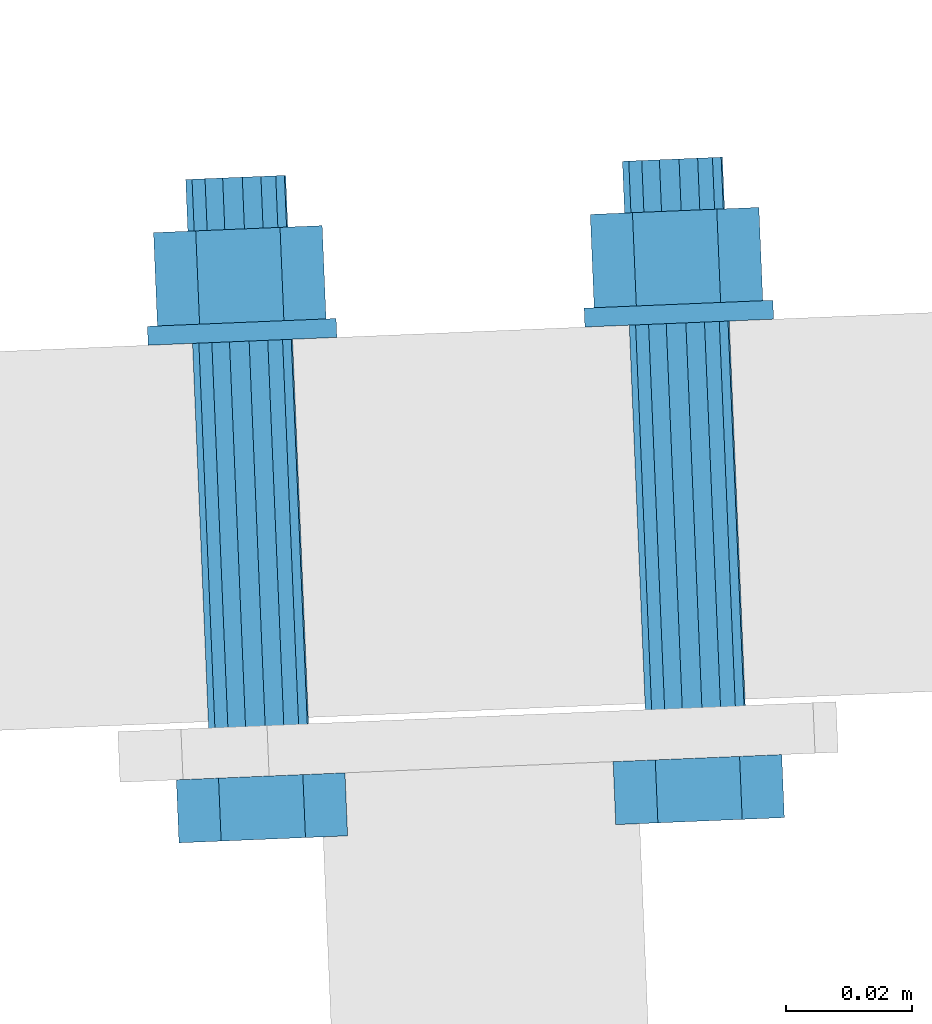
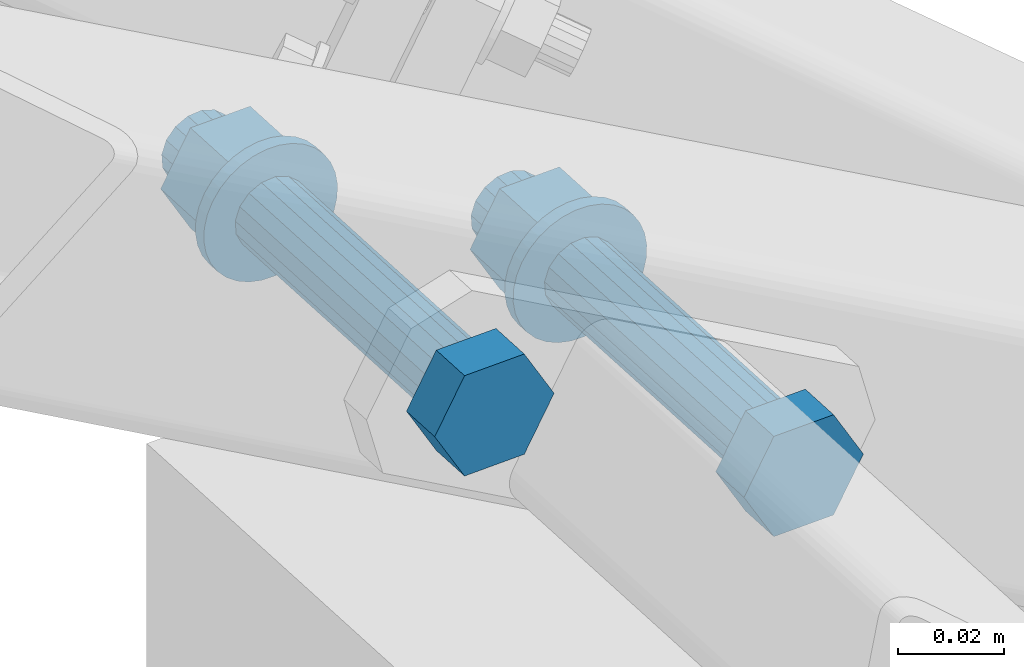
# One storey, part 140 of 288: 1 mechanical fastener.
"""IFC2X3 building model written with IfcOpenShell, lengths in millimetres."""

from ifc_helpers import new_model, entity, si_unit, converted_unit, origin_with_axes, place, context, project, spatial, faceted_brep, element, save


model = new_model("IFC2X3")

# Units and contexts
model_context = context("Model", 3, precision=1e-09, world=origin_with_axes())
ifc_project = project(units=[si_unit("LENGTHUNIT", "METRE", prefix="MILLI"), si_unit("AREAUNIT", "SQUARE_METRE"), si_unit("VOLUMEUNIT", "CUBIC_METRE"), converted_unit("PLANEANGLEUNIT", "DEGREE", entity("IfcPlaneAngleMeasure", 0.01745329), si_unit("PLANEANGLEUNIT", "RADIAN"), dimensions=[0, 0, 0, 0, 0, 0, 0])], contexts=[model_context])

# Site, building, storey
site_placement = place(None, origin_with_axes())
site = spatial("IfcSite", under=ifc_project, at=site_placement, Name="Remont ?wietlik?w nad MC w NCPP w Opolu", CompositionType="ELEMENT")
building_placement = place(site_placement, origin_with_axes())
building = spatial("IfcBuilding", under=site, at=building_placement, Name="Konstrukcja 1", CompositionType="ELEMENT")
storey_placement = place(building_placement, origin_with_axes())
storey = spatial("IfcBuildingStorey", under=building, at=storey_placement, Name="Default Storey", CompositionType="ELEMENT", Elevation=0.0)

# Mechanical fastener
mechanical_fastener_placement = place(None, origin_with_axes())
element("IfcMechanicalFastener", 1, at=mechanical_fastener_placement, inside=storey, ObjectType="-", NominalDiameter=16.0, NominalLength=95.0, context=model_context, shape_type="Brep", body=[
    faceted_brep([(1054.347454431, 13360.007274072, 257.171574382), (1053.930737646, 13369.998587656, 257.171573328), (1060.612432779, 13370.277265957, 245.588485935), (1061.029149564, 13360.285952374, 245.588486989), (1073.975814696, 13370.834624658, 245.5884907), (1074.392531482, 13360.843311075, 245.588491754), (1080.657501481, 13371.113305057, 257.171582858), (1081.074218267, 13361.121991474, 257.171583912), (1073.975806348, 13370.834626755, 268.754670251), (1074.392523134, 13360.843313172, 268.754671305), (1060.612424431, 13370.277268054, 268.754665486), (1061.029141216, 13360.285954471, 268.75466654)], [[[0, 1, 2, 3]], [[3, 2, 4, 5]], [[5, 4, 6, 7]], [[7, 6, 8, 9]], [[9, 8, 10, 11]], [[11, 10, 1, 0]], [[3, 5, 7, 9, 11, 0]], [[2, 1, 10, 8, 6, 4]]]),
    faceted_brep([(1123.569319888, 13362.894369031, 217.171599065), (1123.152603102, 13372.885682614, 217.17159801), (1129.834298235, 13373.164360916, 205.588510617), (1130.25101502, 13363.173047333, 205.588511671), (1143.197680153, 13373.721719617, 205.588515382), (1143.614396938, 13363.730406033, 205.588516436), (1149.879366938, 13374.000400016, 217.17160754), (1150.296083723, 13364.009086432, 217.171608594), (1143.197671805, 13373.721721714, 228.754694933), (1143.61438859, 13363.73040813, 228.754695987), (1129.834289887, 13373.164363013, 228.754690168), (1130.251006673, 13363.17304943, 228.754691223)], [[[0, 1, 2, 3]], [[3, 2, 4, 5]], [[5, 4, 6, 7]], [[7, 6, 8, 9]], [[9, 8, 10, 11]], [[11, 10, 1, 0]], [[3, 5, 7, 9, 11, 0]], [[2, 1, 10, 8, 6, 4]]]),
    faceted_brep([(1071.340914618, 13439.785814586, 253.171573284), (1074.216306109, 13370.844655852, 253.171580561), (1072.159982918, 13370.758890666, 250.824753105), (1069.284591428, 13439.7000494, 250.824745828), (1069.362876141, 13370.642229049, 249.44417222), (1066.48748465, 13439.583387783, 249.444164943), (1066.250819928, 13370.512431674, 249.24001883), (1063.375428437, 13439.453590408, 249.240011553), (1063.297596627, 13370.389259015, 250.243373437), (1060.422205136, 13439.330417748, 250.24336616), (1060.952807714, 13370.291462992, 252.3014844), (1058.077416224, 13439.232621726, 252.301477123), (1059.573426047, 13370.233932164, 255.101022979), (1056.698034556, 13439.175090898, 255.101015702), (1059.369449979, 13370.225425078, 258.215784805), (1056.494058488, 13439.166583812, 258.215777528), (1060.371933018, 13370.26723686, 261.171575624), (1057.496541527, 13439.208395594, 261.171568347), (1062.428256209, 13370.353002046, 263.51840308), (1059.552864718, 13439.29416078, 263.518395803), (1065.225362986, 13370.469663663, 264.898983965), (1062.349971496, 13439.410822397, 264.898976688), (1068.337419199, 13370.599461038, 265.103137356), (1065.462027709, 13439.540619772, 265.103130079), (1071.2906425, 13370.722633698, 264.099782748), (1068.41525101, 13439.663792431, 264.099775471), (1073.635431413, 13370.82042972, 262.041671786), (1070.760039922, 13439.761588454, 262.041664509), (1075.01481308, 13370.877960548, 259.242133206), (1072.13942159, 13439.819119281, 259.242125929), (1075.218789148, 13370.886467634, 256.127371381), (1072.343397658, 13439.827626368, 256.127364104)], [[[0, 1, 2, 3]], [[3, 2, 4, 5]], [[5, 4, 6, 7]], [[7, 6, 8, 9]], [[9, 8, 10, 11]], [[11, 10, 12, 13]], [[13, 12, 14, 15]], [[15, 14, 16, 17]], [[17, 16, 18, 19]], [[19, 18, 20, 21]], [[21, 20, 22, 23]], [[23, 22, 24, 25]], [[25, 24, 26, 27]], [[27, 26, 28, 29]], [[29, 28, 30, 31]], [[31, 30, 1, 0]], [[2, 1, 30, 28, 26, 24, 22, 20, 18, 16, 14, 12, 10, 8, 6, 4]], [[31, 0, 3, 5, 7, 9, 11, 13, 15, 17, 19, 21, 23, 25, 27, 29]]]),
    faceted_brep([(1140.562780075, 13442.672909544, 213.171597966), (1143.438171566, 13373.731750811, 213.171605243), (1141.381848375, 13373.645985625, 210.824777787), (1138.506456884, 13442.587144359, 210.82477051), (1138.584741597, 13373.529324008, 209.444196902), (1135.709350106, 13442.470482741, 209.444189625), (1135.472685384, 13373.399526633, 209.240043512), (1132.597293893, 13442.340685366, 209.240036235), (1132.519462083, 13373.276353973, 210.24339812), (1129.644070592, 13442.217512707, 210.243390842), (1130.174673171, 13373.178557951, 212.301509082), (1127.29928168, 13442.119716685, 212.301501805), (1128.795291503, 13373.121027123, 215.101047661), (1125.919900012, 13442.062185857, 215.101040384), (1128.591315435, 13373.112520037, 218.215809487), (1125.715923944, 13442.05367877, 218.21580221), (1129.593798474, 13373.154331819, 221.171600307), (1126.718406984, 13442.095490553, 221.17159303), (1131.650121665, 13373.240097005, 223.518427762), (1128.774730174, 13442.181255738, 223.518420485), (1134.447228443, 13373.356758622, 224.899008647), (1131.571836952, 13442.297917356, 224.89900137), (1137.559284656, 13373.486555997, 225.103162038), (1134.683893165, 13442.427714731, 225.103154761), (1140.512507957, 13373.609728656, 224.09980743), (1137.637116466, 13442.55088739, 224.099800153), (1142.857296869, 13373.707524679, 222.041696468), (1139.981905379, 13442.648683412, 222.041689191), (1144.236678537, 13373.765055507, 219.242157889), (1141.361287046, 13442.70621424, 219.242150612), (1144.440654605, 13373.773562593, 216.127396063), (1141.565263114, 13442.714721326, 216.127388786)], [[[0, 1, 2, 3]], [[3, 2, 4, 5]], [[5, 4, 6, 7]], [[7, 6, 8, 9]], [[9, 8, 10, 11]], [[11, 10, 12, 13]], [[13, 12, 14, 15]], [[15, 14, 16, 17]], [[17, 16, 18, 19]], [[19, 18, 20, 21]], [[21, 20, 22, 23]], [[23, 22, 24, 25]], [[25, 24, 26, 27]], [[27, 26, 28, 29]], [[29, 28, 30, 31]], [[31, 30, 1, 0]], [[2, 1, 30, 28, 26, 24, 22, 20, 18, 16, 14, 12, 10, 8, 6, 4]], [[31, 0, 3, 5, 7, 9, 11, 13, 15, 17, 19, 21, 23, 25, 27, 29]]]),
    faceted_brep([(1077.27281281, 13443.035829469, 249.671575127), (1077.397827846, 13440.038435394, 249.671575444), (1075.686532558, 13439.967060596, 247.281387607), (1075.561517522, 13442.964454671, 247.28138729), (1073.542221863, 13439.877625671, 245.271273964), (1073.417206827, 13442.875019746, 245.271273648), (1071.047300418, 13439.773567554, 243.718482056), (1070.922285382, 13442.770961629, 243.71848174), (1068.297646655, 13439.658885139, 242.682684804), (1068.17263162, 13442.656279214, 242.682684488), (1065.398928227, 13439.537985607, 242.203687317), (1065.273913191, 13442.535379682, 242.203687), (1062.462541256, 13439.415515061, 242.299897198), (1062.33752622, 13442.412909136, 242.299896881), (1059.601329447, 13439.296179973, 242.967617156), (1059.476314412, 13442.293574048, 242.967616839), (1056.925247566, 13439.184566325, 244.181187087), (1056.800232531, 13442.1819604, 244.181186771), (1054.537135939, 13439.084963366, 245.89397018), (1054.412120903, 13442.082357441, 245.893969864), (1052.528768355, 13439.001198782, 248.040145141), (1052.40375332, 13441.998592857, 248.040144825), (1050.977325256, 13438.9364916, 250.53723567), (1050.85231022, 13441.933885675, 250.537235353), (1049.942427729, 13438.89332848, 253.289279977), (1049.817412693, 13441.890722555, 253.289279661), (1049.463846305, 13438.873368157, 256.190518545), (1049.33883127, 13441.870762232, 256.190518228), (1049.559972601, 13438.877377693, 259.129458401), (1049.434957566, 13441.874771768, 259.129458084), (1050.227112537, 13438.905203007, 261.993157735), (1050.102097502, 13441.902597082, 261.993157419), (1051.4396283, 13438.955774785, 264.671566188), (1051.314613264, 13441.95316886, 264.671565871), (1053.150923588, 13439.027149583, 267.061754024), (1053.025908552, 13442.024543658, 267.061753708), (1055.295234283, 13439.116584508, 269.071867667), (1055.170219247, 13442.113978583, 269.071867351), (1057.790155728, 13439.220642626, 270.624659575), (1057.665140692, 13442.218036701, 270.624659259), (1060.53980949, 13439.335325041, 271.660456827), (1060.414794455, 13442.332719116, 271.660456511), (1063.438527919, 13439.456224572, 272.139454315), (1063.313512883, 13442.453618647, 272.139453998), (1066.37491489, 13439.578695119, 272.043244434), (1066.249899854, 13442.576089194, 272.043244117), (1069.236126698, 13439.698030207, 271.375524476), (1069.111111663, 13442.695424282, 271.375524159), (1071.912208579, 13439.809643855, 270.161954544), (1071.787193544, 13442.80703793, 270.161954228), (1074.300320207, 13439.909246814, 268.449171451), (1074.175305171, 13442.906640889, 268.449171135), (1076.30868779, 13439.993011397, 266.30299649), (1076.183672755, 13442.990405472, 266.302996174), (1077.86013089, 13440.057718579, 263.805905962), (1077.735115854, 13443.055112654, 263.805905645), (1078.895028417, 13440.100881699, 261.053861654), (1078.770013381, 13443.098275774, 261.053861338), (1079.37360984, 13440.120842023, 258.152623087), (1079.248594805, 13443.118236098, 258.15262277), (1079.277483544, 13440.116832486, 255.21368323), (1079.152468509, 13443.114226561, 255.213682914), (1078.610343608, 13440.089007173, 252.349983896), (1078.485328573, 13443.086401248, 252.34998358)], [[[0, 1, 2, 3]], [[3, 2, 4, 5]], [[5, 4, 6, 7]], [[7, 6, 8, 9]], [[9, 8, 10, 11]], [[11, 10, 12, 13]], [[13, 12, 14, 15]], [[15, 14, 16, 17]], [[17, 16, 18, 19]], [[19, 18, 20, 21]], [[21, 20, 22, 23]], [[23, 22, 24, 25]], [[25, 24, 26, 27]], [[27, 26, 28, 29]], [[29, 28, 30, 31]], [[31, 30, 32, 33]], [[33, 32, 34, 35]], [[35, 34, 36, 37]], [[37, 36, 38, 39]], [[39, 38, 40, 41]], [[41, 40, 42, 43]], [[43, 42, 44, 45]], [[45, 44, 46, 47]], [[47, 46, 48, 49]], [[49, 48, 50, 51]], [[51, 50, 52, 53]], [[53, 52, 54, 55]], [[55, 54, 56, 57]], [[57, 56, 58, 59]], [[59, 58, 60, 61]], [[61, 60, 62, 63]], [[63, 62, 1, 0]], [[2, 1, 62, 60, 58, 56, 54, 52, 50, 48, 46, 44, 42, 40, 38, 36, 34, 32, 30, 28, 26, 24, 22, 20, 18, 16, 14, 12, 10, 8, 6, 4]], [[63, 0, 3, 5, 7, 9, 11, 13, 15, 17, 19, 21, 23, 25, 27, 29, 31, 33, 35, 37, 39, 41, 43, 45, 47, 49, 51, 53, 55, 57, 59, 61]]]),
    faceted_brep([(1146.494678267, 13445.922924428, 209.671599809), (1146.619693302, 13442.925530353, 209.671600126), (1144.908398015, 13442.854155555, 207.281412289), (1144.783382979, 13445.85154963, 207.281411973), (1142.764087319, 13442.76472063, 205.271298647), (1142.639072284, 13445.762114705, 205.27129833), (1140.269165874, 13442.660662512, 203.718506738), (1140.144150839, 13445.658056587, 203.718506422), (1137.519512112, 13442.545980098, 202.682709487), (1137.394497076, 13445.543374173, 202.68270917), (1134.620793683, 13442.425080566, 202.203711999), (1134.495778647, 13445.422474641, 202.203711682), (1131.684406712, 13442.302610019, 202.29992188), (1131.559391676, 13445.300004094, 202.299921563), (1128.823194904, 13442.183274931, 202.967641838), (1128.698179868, 13445.180669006, 202.967641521), (1126.147113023, 13442.071661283, 204.181211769), (1126.022097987, 13445.069055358, 204.181211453), (1123.759001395, 13441.972058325, 205.893994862), (1123.63398636, 13444.9694524, 205.893994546), (1121.750633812, 13441.888293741, 208.040169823), (1121.625618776, 13444.885687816, 208.040169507), (1120.199190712, 13441.823586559, 210.537260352), (1120.074175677, 13444.820980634, 210.537260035), (1119.164293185, 13441.780423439, 213.289304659), (1119.039278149, 13444.777817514, 213.289304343), (1118.685711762, 13441.760463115, 216.190543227), (1118.560696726, 13444.75785719, 216.190542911), (1118.781838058, 13441.764472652, 219.129483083), (1118.656823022, 13444.761866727, 219.129482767), (1119.448977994, 13441.792297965, 221.993182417), (1119.323962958, 13444.78969204, 221.993182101), (1120.661493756, 13441.842869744, 224.67159087), (1120.53647872, 13444.840263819, 224.671590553), (1122.372789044, 13441.914244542, 227.061778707), (1122.247774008, 13444.911638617, 227.06177839), (1124.517099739, 13442.003679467, 229.071892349), (1124.392084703, 13445.001073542, 229.071892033), (1127.012021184, 13442.107737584, 230.624684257), (1126.887006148, 13445.105131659, 230.624683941), (1129.761674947, 13442.222419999, 231.660481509), (1129.636659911, 13445.219814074, 231.660481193), (1132.660393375, 13442.343319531, 232.139478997), (1132.53537834, 13445.340713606, 232.13947868), (1135.596780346, 13442.465790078, 232.043269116), (1135.471765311, 13445.463184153, 232.0432688), (1138.457992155, 13442.585125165, 231.375549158), (1138.332977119, 13445.58251924, 231.375548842), (1141.134074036, 13442.696738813, 230.161979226), (1141.009059, 13445.694132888, 230.16197891), (1143.522185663, 13442.796341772, 228.449196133), (1143.397170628, 13445.793735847, 228.449195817), (1145.530553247, 13442.880106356, 226.303021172), (1145.405538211, 13445.877500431, 226.303020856), (1147.081996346, 13442.944813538, 223.805930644), (1146.95698131, 13445.942207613, 223.805930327), (1148.116893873, 13442.987976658, 221.053886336), (1147.991878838, 13445.985370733, 221.05388602), (1148.595475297, 13443.007936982, 218.152647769), (1148.470460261, 13446.005331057, 218.152647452), (1148.499349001, 13443.003927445, 215.213707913), (1148.374333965, 13446.00132152, 215.213707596), (1147.832209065, 13442.976102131, 212.350008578), (1147.707194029, 13445.973496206, 212.350008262)], [[[0, 1, 2, 3]], [[3, 2, 4, 5]], [[5, 4, 6, 7]], [[7, 6, 8, 9]], [[9, 8, 10, 11]], [[11, 10, 12, 13]], [[13, 12, 14, 15]], [[15, 14, 16, 17]], [[17, 16, 18, 19]], [[19, 18, 20, 21]], [[21, 20, 22, 23]], [[23, 22, 24, 25]], [[25, 24, 26, 27]], [[27, 26, 28, 29]], [[29, 28, 30, 31]], [[31, 30, 32, 33]], [[33, 32, 34, 35]], [[35, 34, 36, 37]], [[37, 36, 38, 39]], [[39, 38, 40, 41]], [[41, 40, 42, 43]], [[43, 42, 44, 45]], [[45, 44, 46, 47]], [[47, 46, 48, 49]], [[49, 48, 50, 51]], [[51, 50, 52, 53]], [[53, 52, 54, 55]], [[55, 54, 56, 57]], [[57, 56, 58, 59]], [[59, 58, 60, 61]], [[61, 60, 62, 63]], [[63, 62, 1, 0]], [[2, 1, 62, 60, 58, 56, 54, 52, 50, 48, 46, 44, 42, 40, 38, 36, 34, 32, 30, 28, 26, 24, 22, 20, 18, 16, 14, 12, 10, 8, 6, 4]], [[63, 0, 3, 5, 7, 9, 11, 13, 15, 17, 19, 21, 23, 25, 27, 29, 31, 33, 35, 37, 39, 41, 43, 45, 47, 49, 51, 53, 55, 57, 59, 61]]]),
    faceted_brep([(1050.930331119, 13441.937140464, 257.171565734), (1050.313590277, 13456.724284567, 257.171564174), (1056.99528541, 13457.002962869, 245.58847678), (1057.612026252, 13442.215818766, 245.588478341), (1070.358667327, 13457.56032157, 245.588481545), (1070.97540817, 13442.773177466, 245.588483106), (1077.040354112, 13457.839001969, 257.171573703), (1077.657094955, 13443.051857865, 257.171575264), (1070.35865898, 13457.560323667, 268.754661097), (1070.975399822, 13442.773179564, 268.754662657), (1056.995277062, 13457.002964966, 268.754656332), (1057.612017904, 13442.215820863, 268.754657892)], [[[0, 1, 2, 3]], [[3, 2, 4, 5]], [[5, 4, 6, 7]], [[7, 6, 8, 9]], [[9, 8, 10, 11]], [[11, 10, 1, 0]], [[3, 5, 7, 9, 11, 0]], [[2, 1, 10, 8, 6, 4]]]),
    faceted_brep([(1120.152196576, 13444.824235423, 217.171590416), (1119.535455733, 13459.611379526, 217.171588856), (1126.217150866, 13459.890057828, 205.588501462), (1126.833891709, 13445.102913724, 205.588503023), (1139.580532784, 13460.447416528, 205.588506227), (1140.197273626, 13445.660272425, 205.588507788), (1146.262219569, 13460.726096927, 217.171598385), (1146.878960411, 13445.938952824, 217.171599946), (1139.580524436, 13460.447418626, 228.754685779), (1140.197265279, 13445.660274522, 228.754687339), (1126.217142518, 13459.890059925, 228.754681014), (1126.833883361, 13445.102915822, 228.754682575)], [[[0, 1, 2, 3]], [[3, 2, 4, 5]], [[5, 4, 6, 7]], [[7, 6, 8, 9]], [[9, 8, 10, 11]], [[11, 10, 1, 0]], [[3, 5, 7, 9, 11, 0]], [[2, 1, 10, 8, 6, 4]]]),
    faceted_brep([(1070.257496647, 13465.762134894, 253.171570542), (1070.59915874, 13457.570352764, 253.171571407), (1068.542835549, 13457.484587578, 250.824743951), (1068.201173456, 13465.676369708, 250.824743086), (1065.745728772, 13457.367925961, 249.444163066), (1065.404066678, 13465.559708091, 249.444162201), (1062.633672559, 13457.238128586, 249.240009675), (1062.292010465, 13465.429910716, 249.240008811), (1059.680449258, 13457.114955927, 250.243364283), (1059.338787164, 13465.306738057, 250.243363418), (1057.335660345, 13457.017159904, 252.301475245), (1056.993998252, 13465.208942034, 252.301474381), (1055.956278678, 13456.959629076, 255.101013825), (1055.614616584, 13465.151411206, 255.10101296), (1055.75230261, 13456.95112199, 258.215775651), (1055.410640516, 13465.14290412, 258.215774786), (1056.754785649, 13456.992933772, 261.17156647), (1056.413123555, 13465.184715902, 261.171565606), (1058.81110884, 13457.078698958, 263.518393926), (1058.469446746, 13465.270481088, 263.518393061), (1061.608215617, 13457.195360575, 264.898974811), (1061.266553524, 13465.387142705, 264.898973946), (1064.72027183, 13457.32515795, 265.103128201), (1064.378609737, 13465.51694008, 265.103127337), (1067.673495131, 13457.448330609, 264.099773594), (1067.331833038, 13465.640112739, 264.099772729), (1070.018284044, 13457.546126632, 262.041662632), (1069.67662195, 13465.737908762, 262.041661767), (1071.397665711, 13457.60365746, 259.242124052), (1071.056003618, 13465.79543959, 259.242123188), (1071.601641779, 13457.612164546, 256.127362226), (1071.259979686, 13465.803946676, 256.127361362)], [[[0, 1, 2, 3]], [[3, 2, 4, 5]], [[5, 4, 6, 7]], [[7, 6, 8, 9]], [[9, 8, 10, 11]], [[11, 10, 12, 13]], [[13, 12, 14, 15]], [[15, 14, 16, 17]], [[17, 16, 18, 19]], [[19, 18, 20, 21]], [[21, 20, 22, 23]], [[23, 22, 24, 25]], [[25, 24, 26, 27]], [[27, 26, 28, 29]], [[29, 28, 30, 31]], [[31, 30, 1, 0]], [[2, 1, 30, 28, 26, 24, 22, 20, 18, 16, 14, 12, 10, 8, 6, 4]], [[31, 0, 3, 5, 7, 9, 11, 13, 15, 17, 19, 21, 23, 25, 27, 29]]]),
    faceted_brep([(1139.479362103, 13468.649229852, 213.171595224), (1139.821024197, 13460.457447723, 213.171596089), (1137.764701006, 13460.371682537, 210.824768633), (1137.423038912, 13468.563464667, 210.824767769), (1134.967594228, 13460.25502092, 209.444187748), (1134.625932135, 13468.44680305, 209.444186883), (1131.855538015, 13460.125223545, 209.240034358), (1131.513875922, 13468.317005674, 209.240033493), (1128.902314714, 13460.002050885, 210.243388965), (1128.560652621, 13468.193833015, 210.243388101), (1126.557525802, 13459.904254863, 212.301499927), (1126.215863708, 13468.096036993, 212.301499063), (1125.178144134, 13459.846724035, 215.101038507), (1124.83648204, 13468.038506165, 215.101037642), (1124.974168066, 13459.838216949, 218.215800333), (1124.632505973, 13468.029999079, 218.215799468), (1125.976651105, 13459.880028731, 221.171591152), (1125.634989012, 13468.071810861, 221.171590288), (1128.032974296, 13459.965793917, 223.518418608), (1127.691312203, 13468.157576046, 223.518417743), (1130.830081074, 13460.082455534, 224.898999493), (1130.48841898, 13468.274237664, 224.898998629), (1133.942137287, 13460.212252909, 225.103152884), (1133.600475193, 13468.404035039, 225.103152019), (1136.895360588, 13460.335425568, 224.099798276), (1136.553698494, 13468.527207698, 224.099797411), (1139.2401495, 13460.433221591, 222.041687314), (1138.898487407, 13468.62500372, 222.041686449), (1140.619531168, 13460.490752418, 219.242148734), (1140.277869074, 13468.682534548, 219.24214787), (1140.823507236, 13460.499259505, 216.127386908), (1140.481845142, 13468.691041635, 216.127386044)], [[[0, 1, 2, 3]], [[3, 2, 4, 5]], [[5, 4, 6, 7]], [[7, 6, 8, 9]], [[9, 8, 10, 11]], [[11, 10, 12, 13]], [[13, 12, 14, 15]], [[15, 14, 16, 17]], [[17, 16, 18, 19]], [[19, 18, 20, 21]], [[21, 20, 22, 23]], [[23, 22, 24, 25]], [[25, 24, 26, 27]], [[27, 26, 28, 29]], [[29, 28, 30, 31]], [[31, 30, 1, 0]], [[2, 1, 30, 28, 26, 24, 22, 20, 18, 16, 14, 12, 10, 8, 6, 4]], [[31, 0, 3, 5, 7, 9, 11, 13, 15, 17, 19, 21, 23, 25, 27, 29]]]),
])

save(model, "model.ifc")
